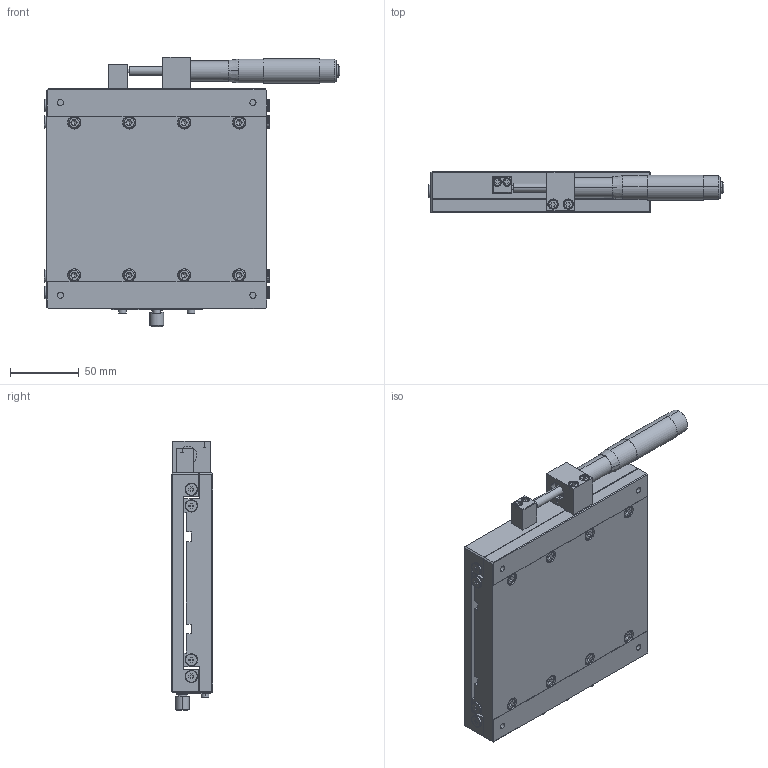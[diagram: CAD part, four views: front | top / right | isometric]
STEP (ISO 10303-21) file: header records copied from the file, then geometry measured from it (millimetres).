
FILE_DESCRIPTION (( 'STEP AP203' ), '1' );
FILE_NAME ('LX160-L.STEP', '2013-12-29T05:00:49', ( 'pengyu' ), ( '' ), 'SwSTEP 2.0', 'SolidWorks 2011', '' );
FILE_SCHEMA (( 'CONFIG_CONTROL_DESIGN' ));
Length unit declared in the file: millimetre
Products named in the file (4): LX160-L; MT50-1-1; L160L-2; L160L-1
Assembly tree (3 placements, depth 2):
  LX160-L
    L160L-2
    L160L-1
    MT50-1-1
Bounding box: 215.17 x 30 x 196 mm (x, y, z)
Volume: 730779.3 mm3; surface area: 161655.1 mm2
Topology: 3 solids, 6 shells, 891 faces, 2229 edges, 1410 vertices
Faces by surface type: plane 530, cylinder 229, bspline 82, cone 50
Entity records: 28155 total; most frequent: CARTESIAN_POINT 6406, DIRECTION 4489, ORIENTED_EDGE 4390, EDGE_CURVE 2195, AXIS2_PLACEMENT_3D 1569, VERTEX_POINT 1410, LINE 1351, VECTOR 1351
